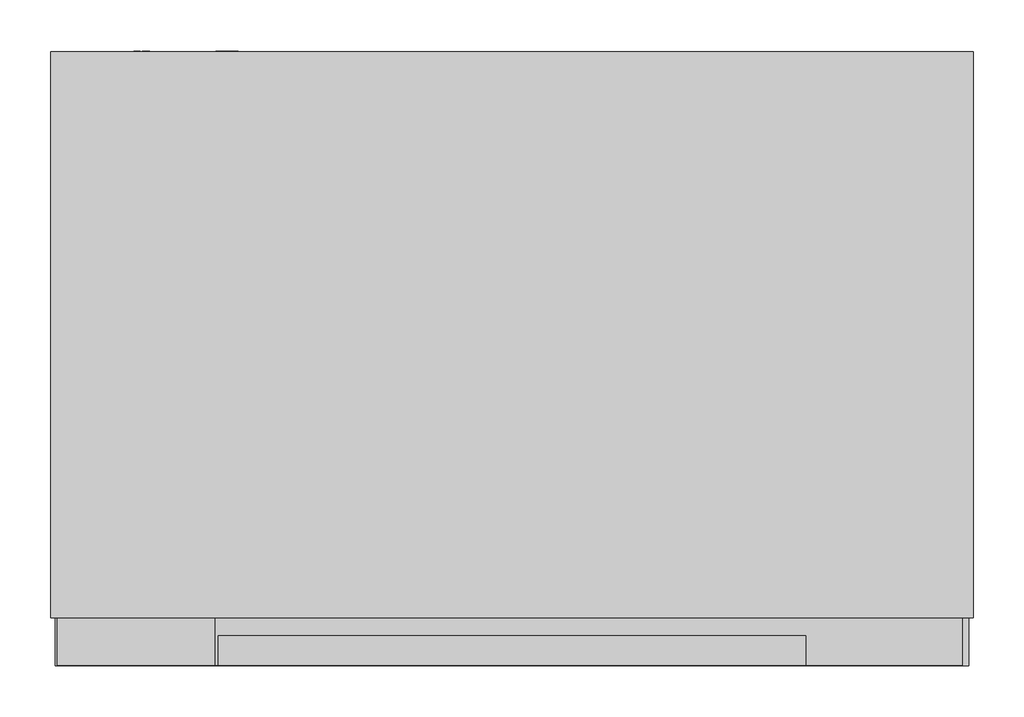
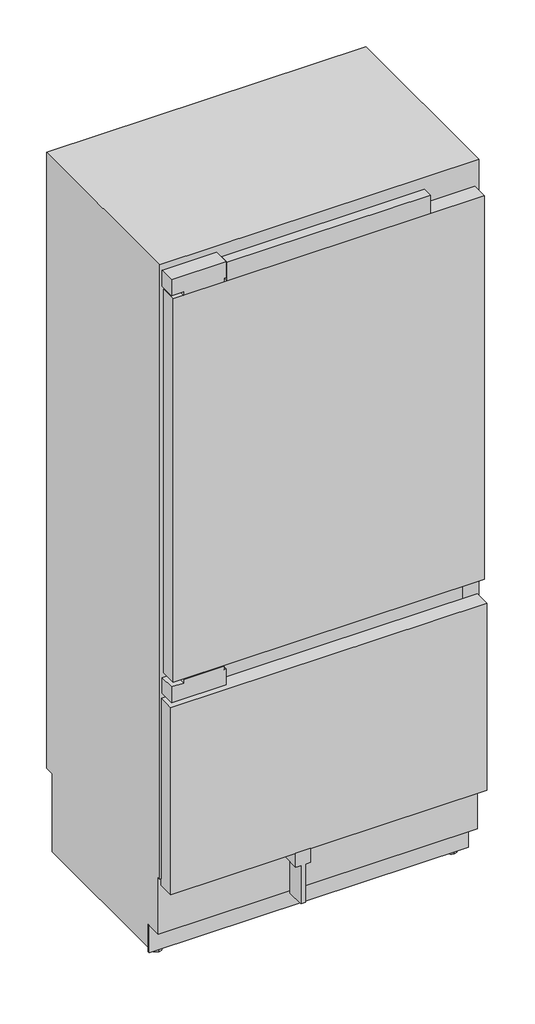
# Not in any storey: 1 proxy.
"""IFC4 building model written with IfcOpenShell, lengths in millimetres."""

from ifc_helpers import new_model, si_unit, origin, place, context, project, spatial, transform, mapped, element, save
from components import specialty_equipment_4c646a47

model = new_model("IFC4")

# Units and contexts
model_context = context("Model", 3, world=origin())
ifc_project = project(units=[si_unit("LENGTHUNIT", "METRE", prefix="MILLI")], contexts=[model_context])

# Site, building
site = spatial("IfcSite", under=ifc_project)
building = spatial("IfcBuilding", under=site)

# Proxy
placement = place(None, origin())
specialty_equipment_shape = specialty_equipment_4c646a47(model_context)
element("IfcBuildingElementProxy", 1, Name="11502940_USA_KF2912Vi : 38291201_USA_11502940_KF2912Vi", ObjectType="11502940_USA_KF2912Vi : 38291201_USA_11502940_KF2912Vi", at=placement, inside=building, context=model_context, shape_type="MappedRepresentation", body=[
    mapped(specialty_equipment_shape, transform((0.0, 0.0, 0.0), x_axis=(1.0, 0.0, 0.0), y_axis=(0.0, 1.0, 0.0), z_axis=(0.0, 0.0, 1.0))),
])

save(model, "model.ifc")
